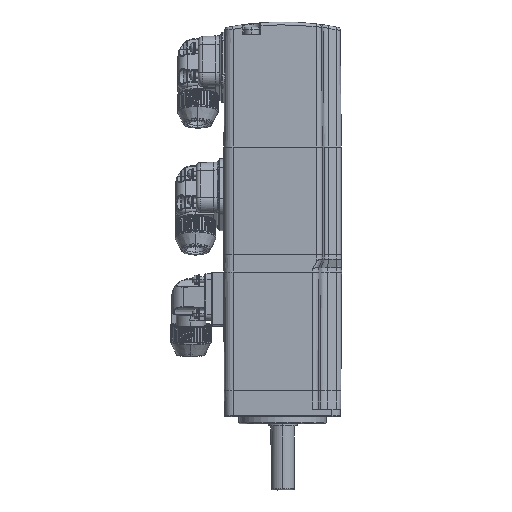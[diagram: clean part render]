
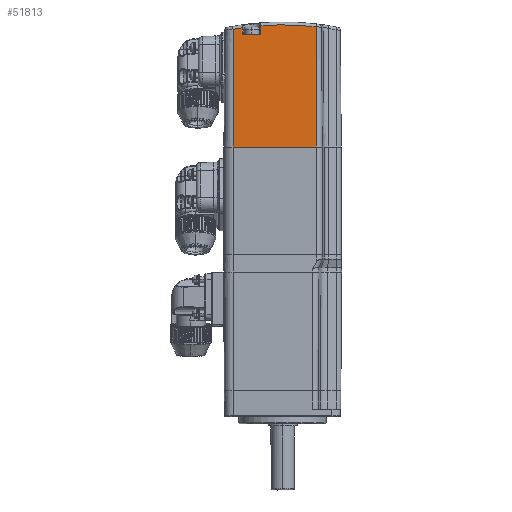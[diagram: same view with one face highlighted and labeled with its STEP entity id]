
A CAD part, front view. The second image highlights one B-rep face of the part: STEP entity #51813.
In plain terms, the highlighted planar face has unit normal (0, 1, -0.009).
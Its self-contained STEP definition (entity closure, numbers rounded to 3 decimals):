
#35435=CARTESIAN_POINT('',(49.992,8.821,
-1.669));
#35443=DIRECTION('',(0.,0.009,1.));
#35444=VECTOR('',#35443,41.232);
#35445=CARTESIAN_POINT('',(49.992,8.461,-42.9));
#35446=LINE('',#35445,#35444);
#35472=DIRECTION('',(-1.,0.,0.));
#35473=VECTOR('',#35472,28.487);
#35474=CARTESIAN_POINT('',(49.992,8.461,-42.9));
#35475=LINE('',#35474,#35473);
#35527=DIRECTION('',(-1.,0.,0.));
#35528=VECTOR('',#35527,6.4);
#35529=CARTESIAN_POINT('',(31.08,8.798,-4.3));
#35530=LINE('',#35529,#35528);
#35531=CARTESIAN_POINT('',(38.501,7.976,
-98.743));
#35532=DIRECTION('',(0.,-1.,0.009));
#35533=DIRECTION('',(-0.141,0.009,0.99));
#35534=AXIS2_PLACEMENT_3D('',#35531,#35532,#35533);
#35536=CARTESIAN_POINT('',(38.5,7.975,
-98.732));
#35537=DIRECTION('',(0.,-1.,0.009));
#35538=DIRECTION('',(0.118,0.009,0.993));
#35539=AXIS2_PLACEMENT_3D('',#35536,#35537,#35538);
#35547=DIRECTION('',(0.,-0.009,
-1.));
#35548=VECTOR('',#35547,3.027);
#35549=CARTESIAN_POINT('',(31.08,8.824,
-1.273));
#35550=LINE('',#35549,#35548);
#35565=CARTESIAN_POINT('',(31.08,8.824,
-1.273));
#35759=DIRECTION('',(0.,-0.009,
-1.));
#35760=VECTOR('',#35759,40.422);
#35761=CARTESIAN_POINT('',(21.505,8.813,
-2.48));
#35762=LINE('',#35761,#35760);
#48729=DIRECTION('',(0.,0.009,1.));
#48730=VECTOR('',#48729,2.327);
#48731=CARTESIAN_POINT('',(24.68,8.798,-4.3));
#48732=LINE('',#48731,#48730);
#49259=VERTEX_POINT('',#35435);
#49263=CARTESIAN_POINT('',(49.992,8.461,-42.9));
#49264=VERTEX_POINT('',#49263);
#49268=VERTEX_POINT('',#35565);
#49275=CARTESIAN_POINT('',(31.08,8.798,-4.3));
#49276=VERTEX_POINT('',#49275);
#49281=CARTESIAN_POINT('',(24.68,8.798,-4.3));
#49282=VERTEX_POINT('',#49281);
#49290=CARTESIAN_POINT('',(21.505,8.461,-42.9));
#49291=VERTEX_POINT('',#49290);
#49292=CARTESIAN_POINT('',(21.505,8.813,
-2.48));
#49293=VERTEX_POINT('',#49292);
#49294=CARTESIAN_POINT('',(24.68,8.818,
-1.973));
#49295=VERTEX_POINT('',#49294);
#51792=CARTESIAN_POINT('',(35.748,8.644,
-21.945));
#51793=DIRECTION('',(0.,1.,-0.009));
#51794=DIRECTION('',(0.,0.009,1.));
#51795=AXIS2_PLACEMENT_3D('',#51792,#51793,#51794);
#51796=PLANE('',#51795);
#51798=ORIENTED_EDGE('',*,*,#51797,.T.);
#51800=ORIENTED_EDGE('',*,*,#51799,.T.);
#51802=ORIENTED_EDGE('',*,*,#51801,.T.);
#51804=ORIENTED_EDGE('',*,*,#51803,.T.);
#51806=ORIENTED_EDGE('',*,*,#51805,.T.);
#51807=ORIENTED_EDGE('',*,*,#51760,.F.);
#51808=ORIENTED_EDGE('',*,*,#51669,.T.);
#51810=ORIENTED_EDGE('',*,*,#51809,.T.);
#51811=EDGE_LOOP('',(#51798,#51800,#51802,#51804,#51806,#51807,#51808,#51810));
#51812=FACE_OUTER_BOUND('',#51811,.F.);
#35535=CIRCLE('',#35534,97.756);
#35540=CIRCLE('',#35539,97.744);
#51669=EDGE_CURVE('',#49264,#49259,#35446,.T.);
#51760=EDGE_CURVE('',#49264,#49291,#35475,.T.);
#51797=EDGE_CURVE('',#49268,#49276,#35550,.T.);
#51799=EDGE_CURVE('',#49276,#49282,#35530,.T.);
#51801=EDGE_CURVE('',#49282,#49295,#48732,.T.);
#51803=EDGE_CURVE('',#49295,#49293,#35535,.T.);
#51805=EDGE_CURVE('',#49293,#49291,#35762,.T.);
#51809=EDGE_CURVE('',#49259,#49268,#35540,.T.);
#51813=ADVANCED_FACE('',(#51812),#51796,.T.);
